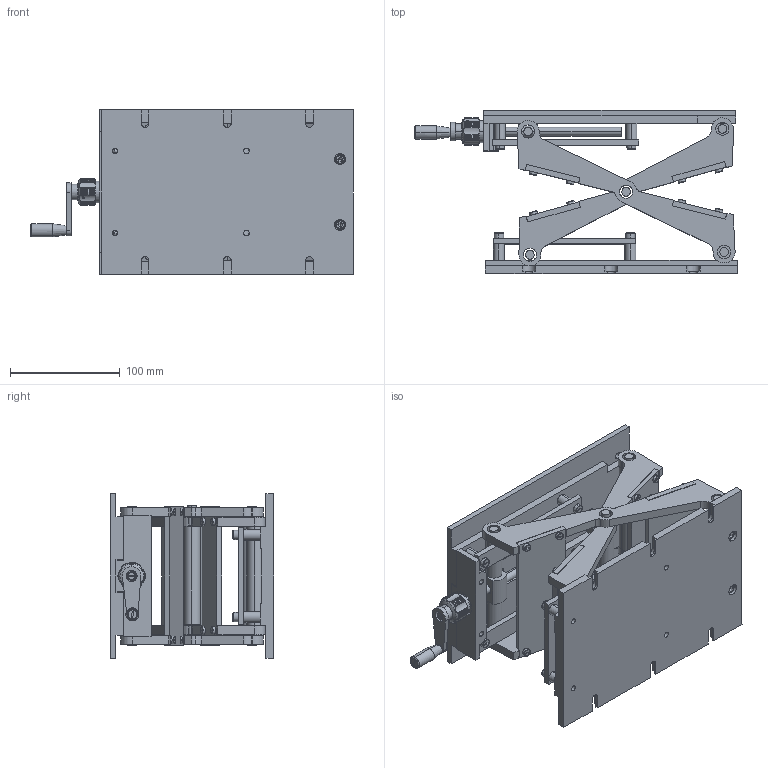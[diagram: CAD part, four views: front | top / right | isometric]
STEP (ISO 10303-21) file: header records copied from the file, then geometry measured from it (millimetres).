
FILE_DESCRIPTION (( 'STEP AP214' ), '1' );
FILE_NAME ('PT-SD1703M.STEP', '2022-09-11T08:21:43', ( '' ), ( '' ), 'SwSTEP 2.0', 'SolidWorks 2017', '' );
FILE_SCHEMA (( 'AUTOMOTIVE_DESIGN' ));
Length unit declared in the file: millimetre
Products named in the file (1): PT-SD1703M
Bounding box: 294.39 x 148.78 x 150 mm (x, y, z)
Surface area: 361872.2 mm2 (no closed solid volume)
Topology: 0 solids, 100 shells, 947 faces, 2826 edges, 1939 vertices
Faces by surface type: plane 391, cylinder 386, cone 108, bspline 62
Entity records: 40077 total; most frequent: CARTESIAN_POINT 15362, DIRECTION 4965, ORIENTED_EDGE 4885, EDGE_CURVE 2810, VERTEX_POINT 1939, AXIS2_PLACEMENT_3D 1831, VECTOR 1303, LINE 1303
